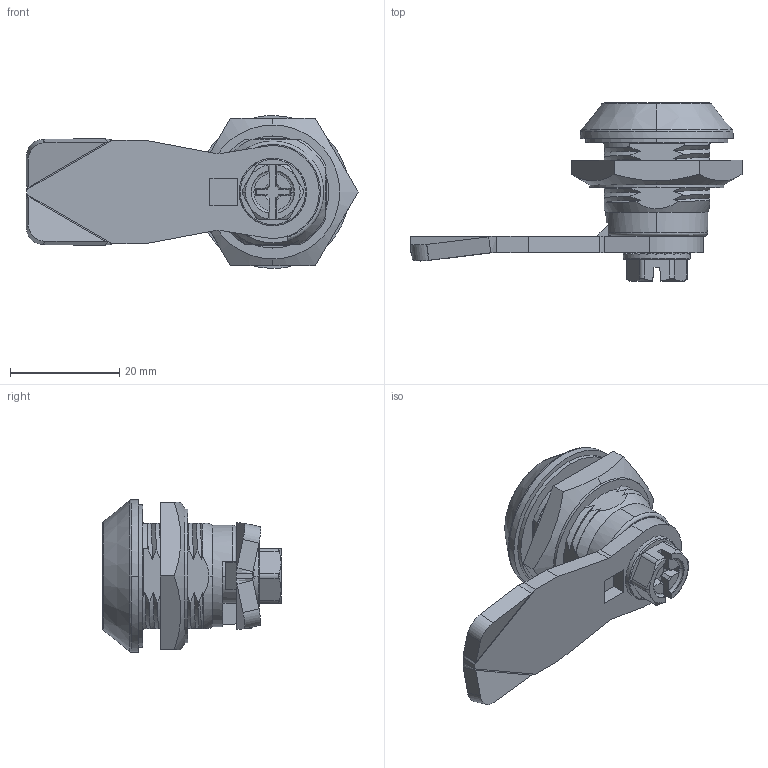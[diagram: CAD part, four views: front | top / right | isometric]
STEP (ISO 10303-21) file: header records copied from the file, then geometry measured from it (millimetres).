
FILE_DESCRIPTION (( 'STEP AP214' ), '1' );
FILE_NAME ('M22-DU.STEP', '2016-08-22T05:56:53', ( 'Krzysiek' ), ( '' ), 'SwSTEP 2.0', 'SolidWorks 2015', '' );
FILE_SCHEMA (( 'AUTOMOTIVE_DESIGN' ));
Length unit declared in the file: millimetre
Products named in the file (9): 2.NKR_M22 - A1; 2.IP65.003_A; DIN 6921_M6x8; 1C.J-1XX.GH.L_#3, 1.65.18.45; DIN 3771_12x2; 2.M22.03.00.00_B; 2.S.M22-2.001_KW8; 2.K.M22-2.002_90; M22-DU
Assembly tree (8 placements, depth 2):
  M22-DU
    2.K.M22-2.002_90
    2.S.M22-2.001_KW8
    2.M22.03.00.00_B
    DIN 3771_12x2
    1C.J-1XX.GH.L_#3, 1.65.18.45
    DIN 6921_M6x8
    2.IP65.003_A
    2.NKR_M22 - A1
Bounding box: 60.75 x 32.6 x 28 mm (x, y, z)
Volume: 11420.2 mm3; surface area: 10234.6 mm2
Topology: 8 solids, 8 shells, 336 faces, 905 edges, 590 vertices
Faces by surface type: plane 156, bspline 85, cylinder 57, cone 38
Entity records: 29842 total; most frequent: CARTESIAN_POINT 22206, ORIENTED_EDGE 1806, DIRECTION 1173, EDGE_CURVE 903, VERTEX_POINT 590, AXIS2_PLACEMENT_3D 416, EDGE_LOOP 355, LINE 341
